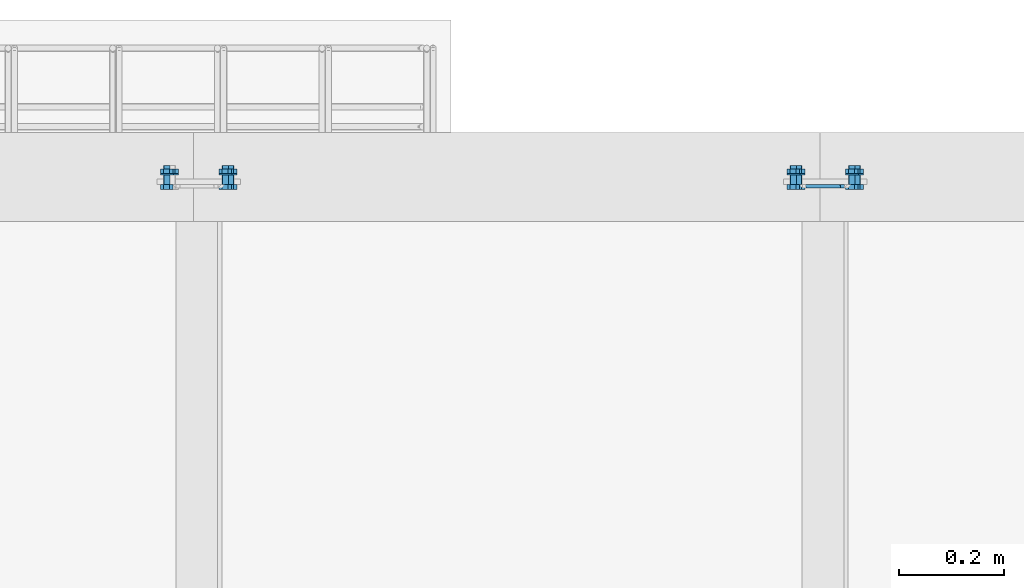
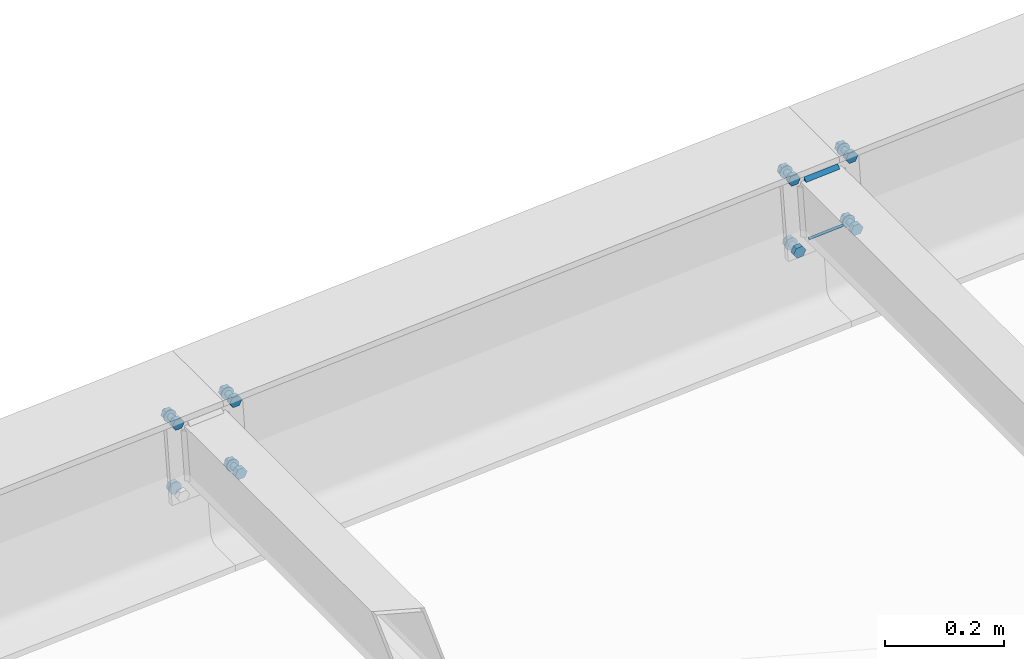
# One storey, part 69 of 72: 30 mechanical fasteners, 4 fasteners.
"""IFC4 building model written with IfcOpenShell, lengths in metres."""

from ifc_helpers import new_model, si_unit, frame, origin_with_axes, place, context, project, spatial, polyline, outline, extrude, type_object, element, save


model = new_model("IFC4")

# Units and contexts
model_context = context("Model", 3, precision=1e-05, world=origin_with_axes())
ifc_project = project(units=[si_unit("LENGTHUNIT", "METRE"), si_unit("AREAUNIT", "SQUARE_METRE"), si_unit("VOLUMEUNIT", "CUBIC_METRE"), si_unit("MASSUNIT", "GRAM", prefix="KILO"), si_unit("TIMEUNIT", "SECOND"), si_unit("PLANEANGLEUNIT", "RADIAN"), si_unit("SOLIDANGLEUNIT", "STERADIAN"), si_unit("THERMODYNAMICTEMPERATUREUNIT", "DEGREE_CELSIUS")], contexts=[model_context])

# Site, building, storey
placement_1 = place(None, origin_with_axes())
site = spatial("IfcSite", under=ifc_project, at=placement_1, Name="Italia", CompositionType="ELEMENT")
building = spatial("IfcBuilding", under=site, at=placement_1, Name="Pensilina", CompositionType="ELEMENT")
storey = spatial("IfcBuildingStorey", under=building, at=placement_1, Name="Storey 0", CompositionType="ELEMENT", Elevation=0.0)

# Mechanical fasteners
mechanical_fastener_type_1 = type_object("IfcMechanicalFastenerType", Name="Collegamento 0305_0304", PredefinedType="BOLT")
placement_2 = place(placement_1, origin_with_axes())
mechanical_fastener_1_placement = place(placement_2, origin_with_axes())
element("IfcMechanicalFastener", 1, at=mechanical_fastener_1_placement, inside=storey, type_object=mechanical_fastener_type_1, Name="Collegamento 0305_0304", NominalDiameter=0.0119999, context=model_context, shape_type="SweptSolid", body=[
    extrude(outline(polyline([(0.0, 0.0, 0.0), (-0.0119727, -0.000808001, 0.0), (-0.0186586, 0.00915694, 0.0), (-0.0133719, 0.0199296, 0.0), (-0.00139904, 0.0207374, 0.0), (0.00528693, 0.0107725, 0.0), (0.0, 0.0, 0.0)])), frame((2.1742, 21.1356, 3.68927), z_axis=(0.0, -1.0, 0.0), x_axis=(1.0, 0.0, 0.0)), (0.0, 0.0, 1.0), 0.00959969),
])
mechanical_fastener_type_2 = type_object("IfcMechanicalFastenerType", Name="Collegamento 0305_0304", PredefinedType="BOLT")
mechanical_fastener_2_placement = place(placement_2, origin_with_axes())
element("IfcMechanicalFastener", 2, at=mechanical_fastener_2_placement, inside=storey, type_object=mechanical_fastener_type_2, Name="Collegamento 0305_0304", NominalDiameter=0.024, context=model_context, shape_type="SweptSolid", body=[
    extrude(outline(polyline([(0.0, 0.0, 0.0), (-0.000408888, -0.00310588, 0.0), (-0.00160789, -0.00600004, 0.0), (-0.00351477, -0.00848532, 0.0), (-0.00600004, -0.0103922, 0.0), (-0.00889421, -0.0115912, 0.0), (-0.0120001, -0.0120001, 0.0), (-0.015106, -0.0115912, 0.0), (-0.0180001, -0.0103922, 0.0), (-0.0204854, -0.00848532, 0.0), (-0.0223923, -0.00600004, 0.0), (-0.0235913, -0.00310588, 0.0), (-0.0240002, 0.0, 0.0), (-0.0235913, 0.00310588, 0.0), (-0.0223923, 0.00600004, 0.0), (-0.0204854, 0.00848532, 0.0), (-0.0180001, 0.0103922, 0.0), (-0.015106, 0.0115912, 0.0), (-0.0120001, 0.0120001, 0.0), (-0.00889421, 0.0115912, 0.0), (-0.00600004, 0.0103922, 0.0), (-0.00351477, 0.00848532, 0.0), (-0.00160789, 0.00600004, 0.0), (-0.000408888, 0.00310588, 0.0), (0.0, 0.0, 0.0)])), frame((2.17951, 21.126, 3.69923), z_axis=(0.0, -1.0, 0.0), x_axis=(1.0, 0.0, 0.0)), (0.0, 0.0, 1.0), 0.00200081),
])
mechanical_fastener_type_3 = type_object("IfcMechanicalFastenerType", Name="Collegamento 0305_0304", PredefinedType="BOLT")
mechanical_fastener_3_placement = place(placement_2, origin_with_axes())
element("IfcMechanicalFastener", 3, at=mechanical_fastener_3_placement, inside=storey, type_object=mechanical_fastener_type_3, Name="Collegamento 0305_0304", NominalDiameter=0.0119999, context=model_context, shape_type="SweptSolid", body=[
    extrude(outline(polyline([(0.0, 0.0, 0.0), (-0.0119729, -0.000807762, 0.0), (-0.0186589, 0.00915718, 0.0), (-0.0133719, 0.0199296, 0.0), (-0.00139928, 0.0207376, 0.0), (0.00528669, 0.0107727, 0.0), (0.0, 0.0, 0.0)])), frame((2.28594, 21.106, 3.69681), z_axis=(0.0, -1.0, 0.0), x_axis=(1.0, 0.0, 0.0)), (0.0, 0.0, 1.0), 0.00959969),
])
mechanical_fastener_type_4 = type_object("IfcMechanicalFastenerType", Name="Collegamento 0305_0304", PredefinedType="BOLT")
mechanical_fastener_4_placement = place(placement_2, origin_with_axes())
element("IfcMechanicalFastener", 4, at=mechanical_fastener_4_placement, inside=storey, type_object=mechanical_fastener_type_4, Name="Collegamento 0305_0304", NominalDiameter=0.012, context=model_context, shape_type="SweptSolid", body=[
    extrude(outline(polyline([(0.0, 0.0, 0.0), (-0.000204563, -0.00155282, 0.0), (-0.000803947, -0.00300002, 0.0), (-0.00175738, -0.00424266, 0.0), (-0.00300002, -0.00519609, 0.0), (-0.00444722, -0.00579548, 0.0), (-0.00600004, -0.00600004, 0.0), (-0.00755286, -0.00579548, 0.0), (-0.00900006, -0.00519609, 0.0), (-0.0102427, -0.00424266, 0.0), (-0.0111961, -0.00300002, 0.0), (-0.0117955, -0.00155282, 0.0), (-0.0120001, 0.0, 0.0), (-0.0117955, 0.00155282, 0.0), (-0.0111961, 0.00300002, 0.0), (-0.0102427, 0.00424266, 0.0), (-0.00900006, 0.00519609, 0.0), (-0.00755286, 0.00579548, 0.0), (-0.00600004, 0.00600004, 0.0), (-0.00444722, 0.00579548, 0.0), (-0.00300002, 0.00519609, 0.0), (-0.00175738, 0.00424266, 0.0), (-0.000803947, 0.00300002, 0.0), (-0.000204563, 0.00155282, 0.0), (0.0, 0.0, 0.0)])), frame((2.28526, 21.142, 3.70677), z_axis=(0.0, -1.0, 0.0), x_axis=(1.0, 0.0, 0.0)), (0.0, 0.0, 1.0), 0.0359993),
])
mechanical_fastener_type_5 = type_object("IfcMechanicalFastenerType", Name="Collegamento 0305_0304", PredefinedType="BOLT")
mechanical_fastener_5_placement = place(placement_2, origin_with_axes())
element("IfcMechanicalFastener", 5, at=mechanical_fastener_5_placement, inside=storey, type_object=mechanical_fastener_type_5, Name="Collegamento 0305_0304", NominalDiameter=0.0119999, context=model_context, shape_type="SweptSolid", body=[
    extrude(outline(polyline([(0.0, 0.0, 0.0), (-0.0119729, -0.000807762, 0.0), (-0.0186589, 0.00915718, 0.0), (-0.0133719, 0.0199296, 0.0), (-0.00139928, 0.0207376, 0.0), (0.00528669, 0.0107727, 0.0), (0.0, 0.0, 0.0)])), frame((2.28594, 21.1356, 3.69681), z_axis=(0.0, -1.0, 0.0), x_axis=(1.0, 0.0, 0.0)), (0.0, 0.0, 1.0), 0.00959969),
])
mechanical_fastener_type_6 = type_object("IfcMechanicalFastenerType", Name="Collegamento 0305_0304", PredefinedType="BOLT")
mechanical_fastener_6_placement = place(placement_2, origin_with_axes())
element("IfcMechanicalFastener", 6, at=mechanical_fastener_6_placement, inside=storey, type_object=mechanical_fastener_type_6, Name="Collegamento 0305_0304", NominalDiameter=0.024, context=model_context, shape_type="SweptSolid", body=[
    extrude(outline(polyline([(0.0, 0.0, 0.0), (-0.000408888, -0.00310588, 0.0), (-0.00160789, -0.00600004, 0.0), (-0.00351477, -0.00848532, 0.0), (-0.00600004, -0.0103922, 0.0), (-0.00889421, -0.0115912, 0.0), (-0.0120001, -0.0120001, 0.0), (-0.015106, -0.0115912, 0.0), (-0.0180001, -0.0103922, 0.0), (-0.0204854, -0.00848532, 0.0), (-0.0223923, -0.00600004, 0.0), (-0.0235913, -0.00310588, 0.0), (-0.0240002, 0.0, 0.0), (-0.0235913, 0.00310588, 0.0), (-0.0223923, 0.00600004, 0.0), (-0.0204854, 0.00848532, 0.0), (-0.0180001, 0.0103922, 0.0), (-0.015106, 0.0115912, 0.0), (-0.0120001, 0.0120001, 0.0), (-0.00889421, 0.0115912, 0.0), (-0.00600004, 0.0103922, 0.0), (-0.00351477, 0.00848532, 0.0), (-0.00160789, 0.00600004, 0.0), (-0.000408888, 0.00310588, 0.0), (0.0, 0.0, 0.0)])), frame((2.29126, 21.126, 3.70677), z_axis=(0.0, -1.0, 0.0), x_axis=(1.0, 0.0, 0.0)), (0.0, 0.0, 1.0), 0.00200081),
])
mechanical_fastener_type_7 = type_object("IfcMechanicalFastenerType", Name="Collegamento 0305_0304", PredefinedType="BOLT")
mechanical_fastener_7_placement = place(placement_2, origin_with_axes())
element("IfcMechanicalFastener", 7, at=mechanical_fastener_7_placement, inside=storey, type_object=mechanical_fastener_type_7, Name="Collegamento 0305_0304", NominalDiameter=0.0119999, context=model_context, shape_type="SweptSolid", body=[
    extrude(outline(polyline([(0.0, 0.0, 0.0), (-0.0119727, -0.000808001, 0.0), (-0.0186586, 0.00915694, 0.0), (-0.0133719, 0.0199296, 0.0), (-0.00139904, 0.0207374, 0.0), (0.00528693, 0.0107725, 0.0), (0.0, 0.0, 0.0)])), frame((2.16397, 21.106, 3.84092), z_axis=(0.0, -1.0, 0.0), x_axis=(1.0, 0.0, 0.0)), (0.0, 0.0, 1.0), 0.00959969),
])
mechanical_fastener_type_8 = type_object("IfcMechanicalFastenerType", Name="Collegamento 0305_0304", PredefinedType="BOLT")
mechanical_fastener_8_placement = place(placement_2, origin_with_axes())
element("IfcMechanicalFastener", 8, at=mechanical_fastener_8_placement, inside=storey, type_object=mechanical_fastener_type_8, Name="Collegamento 0305_0304", NominalDiameter=0.012, context=model_context, shape_type="SweptSolid", body=[
    extrude(outline(polyline([(0.0, 0.0, 0.0), (-0.000204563, -0.00155282, 0.0), (-0.000803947, -0.00300002, 0.0), (-0.00175738, -0.00424266, 0.0), (-0.00300002, -0.00519609, 0.0), (-0.00444722, -0.00579548, 0.0), (-0.00600004, -0.00600004, 0.0), (-0.00755286, -0.00579548, 0.0), (-0.00900006, -0.00519609, 0.0), (-0.0102427, -0.00424266, 0.0), (-0.0111961, -0.00300002, 0.0), (-0.0117955, -0.00155282, 0.0), (-0.0120001, 0.0, 0.0), (-0.0117955, 0.00155282, 0.0), (-0.0111961, 0.00300002, 0.0), (-0.0102427, 0.00424266, 0.0), (-0.00900006, 0.00519609, 0.0), (-0.00755286, 0.00579548, 0.0), (-0.00600004, 0.00600004, 0.0), (-0.00444722, 0.00579548, 0.0), (-0.00300002, 0.00519609, 0.0), (-0.00175738, 0.00424266, 0.0), (-0.000803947, 0.00300002, 0.0), (-0.000204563, 0.00155282, 0.0), (0.0, 0.0, 0.0)])), frame((2.16328, 21.142, 3.85089), z_axis=(0.0, -1.0, 0.0), x_axis=(1.0, 0.0, 0.0)), (0.0, 0.0, 1.0), 0.0359993),
])
mechanical_fastener_type_9 = type_object("IfcMechanicalFastenerType", Name="Collegamento 0305_0304", PredefinedType="BOLT")
mechanical_fastener_9_placement = place(placement_2, origin_with_axes())
element("IfcMechanicalFastener", 9, at=mechanical_fastener_9_placement, inside=storey, type_object=mechanical_fastener_type_9, Name="Collegamento 0305_0304", NominalDiameter=0.0119999, context=model_context, shape_type="SweptSolid", body=[
    extrude(outline(polyline([(0.0, 0.0, 0.0), (-0.0119727, -0.000808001, 0.0), (-0.0186586, 0.00915694, 0.0), (-0.0133719, 0.0199296, 0.0), (-0.00139904, 0.0207374, 0.0), (0.00528693, 0.0107725, 0.0), (0.0, 0.0, 0.0)])), frame((2.16397, 21.1356, 3.84092), z_axis=(0.0, -1.0, 0.0), x_axis=(1.0, 0.0, 0.0)), (0.0, 0.0, 1.0), 0.00959969),
])
mechanical_fastener_type_10 = type_object("IfcMechanicalFastenerType", Name="Collegamento 0305_0304", PredefinedType="BOLT")
mechanical_fastener_10_placement = place(placement_2, origin_with_axes())
element("IfcMechanicalFastener", 10, at=mechanical_fastener_10_placement, inside=storey, type_object=mechanical_fastener_type_10, Name="Collegamento 0305_0304", NominalDiameter=0.024, context=model_context, shape_type="SweptSolid", body=[
    extrude(outline(polyline([(0.0, 0.0, 0.0), (-0.000408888, -0.00310588, 0.0), (-0.00160789, -0.00600004, 0.0), (-0.00351477, -0.00848532, 0.0), (-0.00600004, -0.0103922, 0.0), (-0.00889421, -0.0115912, 0.0), (-0.0120001, -0.0120001, 0.0), (-0.015106, -0.0115912, 0.0), (-0.0180001, -0.0103922, 0.0), (-0.0204854, -0.00848532, 0.0), (-0.0223923, -0.00600004, 0.0), (-0.0235913, -0.00310588, 0.0), (-0.0240002, 0.0, 0.0), (-0.0235913, 0.00310588, 0.0), (-0.0223923, 0.00600004, 0.0), (-0.0204854, 0.00848532, 0.0), (-0.0180001, 0.0103922, 0.0), (-0.015106, 0.0115912, 0.0), (-0.0120001, 0.0120001, 0.0), (-0.00889421, 0.0115912, 0.0), (-0.00600004, 0.0103922, 0.0), (-0.00351477, 0.00848532, 0.0), (-0.00160789, 0.00600004, 0.0), (-0.000408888, 0.00310588, 0.0), (0.0, 0.0, 0.0)])), frame((2.16928, 21.126, 3.85089), z_axis=(0.0, -1.0, 0.0), x_axis=(1.0, 0.0, 0.0)), (0.0, 0.0, 1.0), 0.00200081),
])
mechanical_fastener_type_11 = type_object("IfcMechanicalFastenerType", Name="Collegamento 0305_0304", PredefinedType="BOLT")
mechanical_fastener_11_placement = place(placement_2, origin_with_axes())
element("IfcMechanicalFastener", 11, at=mechanical_fastener_11_placement, inside=storey, type_object=mechanical_fastener_type_11, Name="Collegamento 0305_0304", NominalDiameter=0.0119999, context=model_context, shape_type="SweptSolid", body=[
    extrude(outline(polyline([(0.0, 0.0, 0.0), (-0.0119729, -0.000807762, 0.0), (-0.0186589, 0.00915718, 0.0), (-0.0133719, 0.0199296, 0.0), (-0.00139928, 0.0207376, 0.0), (0.00528669, 0.0107727, 0.0), (0.0, 0.0, 0.0)])), frame((2.27571, 21.106, 3.84846), z_axis=(0.0, -1.0, 0.0), x_axis=(1.0, 0.0, 0.0)), (0.0, 0.0, 1.0), 0.00959969),
])
mechanical_fastener_type_12 = type_object("IfcMechanicalFastenerType", Name="Collegamento 0305_0304", PredefinedType="BOLT")
mechanical_fastener_12_placement = place(placement_2, origin_with_axes())
element("IfcMechanicalFastener", 12, at=mechanical_fastener_12_placement, inside=storey, type_object=mechanical_fastener_type_12, Name="Collegamento 0305_0304", NominalDiameter=0.012, context=model_context, shape_type="SweptSolid", body=[
    extrude(outline(polyline([(0.0, 0.0, 0.0), (-0.000204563, -0.00155282, 0.0), (-0.000803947, -0.00300002, 0.0), (-0.00175738, -0.00424266, 0.0), (-0.00300002, -0.00519609, 0.0), (-0.00444722, -0.00579548, 0.0), (-0.00600004, -0.00600004, 0.0), (-0.00755286, -0.00579548, 0.0), (-0.00900006, -0.00519609, 0.0), (-0.0102427, -0.00424266, 0.0), (-0.0111961, -0.00300002, 0.0), (-0.0117955, -0.00155282, 0.0), (-0.0120001, 0.0, 0.0), (-0.0117955, 0.00155282, 0.0), (-0.0111961, 0.00300002, 0.0), (-0.0102427, 0.00424266, 0.0), (-0.00900006, 0.00519609, 0.0), (-0.00755286, 0.00579548, 0.0), (-0.00600004, 0.00600004, 0.0), (-0.00444722, 0.00579548, 0.0), (-0.00300002, 0.00519609, 0.0), (-0.00175738, 0.00424266, 0.0), (-0.000803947, 0.00300002, 0.0), (-0.000204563, 0.00155282, 0.0), (0.0, 0.0, 0.0)])), frame((2.27503, 21.142, 3.85843), z_axis=(0.0, -1.0, 0.0), x_axis=(1.0, 0.0, 0.0)), (0.0, 0.0, 1.0), 0.0359993),
])
mechanical_fastener_type_13 = type_object("IfcMechanicalFastenerType", Name="Collegamento 0305_0304", PredefinedType="BOLT")
mechanical_fastener_13_placement = place(placement_2, origin_with_axes())
element("IfcMechanicalFastener", 13, at=mechanical_fastener_13_placement, inside=storey, type_object=mechanical_fastener_type_13, Name="Collegamento 0305_0304", NominalDiameter=0.0119999, context=model_context, shape_type="SweptSolid", body=[
    extrude(outline(polyline([(0.0, 0.0, 0.0), (-0.0119729, -0.000807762, 0.0), (-0.0186589, 0.00915718, 0.0), (-0.0133719, 0.0199296, 0.0), (-0.00139928, 0.0207376, 0.0), (0.00528669, 0.0107727, 0.0), (0.0, 0.0, 0.0)])), frame((2.27571, 21.1356, 3.84846), z_axis=(0.0, -1.0, 0.0), x_axis=(1.0, 0.0, 0.0)), (0.0, 0.0, 1.0), 0.00959969),
])
mechanical_fastener_type_14 = type_object("IfcMechanicalFastenerType", Name="Collegamento 0305_0304", PredefinedType="BOLT")
mechanical_fastener_14_placement = place(placement_2, origin_with_axes())
element("IfcMechanicalFastener", 14, at=mechanical_fastener_14_placement, inside=storey, type_object=mechanical_fastener_type_14, Name="Collegamento 0305_0304", NominalDiameter=0.024, context=model_context, shape_type="SweptSolid", body=[
    extrude(outline(polyline([(0.0, 0.0, 0.0), (-0.000408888, -0.00310588, 0.0), (-0.00160789, -0.00600004, 0.0), (-0.00351477, -0.00848532, 0.0), (-0.00600004, -0.0103922, 0.0), (-0.00889421, -0.0115912, 0.0), (-0.0120001, -0.0120001, 0.0), (-0.015106, -0.0115912, 0.0), (-0.0180001, -0.0103922, 0.0), (-0.0204854, -0.00848532, 0.0), (-0.0223923, -0.00600004, 0.0), (-0.0235913, -0.00310588, 0.0), (-0.0240002, 0.0, 0.0), (-0.0235913, 0.00310588, 0.0), (-0.0223923, 0.00600004, 0.0), (-0.0204854, 0.00848532, 0.0), (-0.0180001, 0.0103922, 0.0), (-0.015106, 0.0115912, 0.0), (-0.0120001, 0.0120001, 0.0), (-0.00889421, 0.0115912, 0.0), (-0.00600004, 0.0103922, 0.0), (-0.00351477, 0.00848532, 0.0), (-0.00160789, 0.00600004, 0.0), (-0.000408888, 0.00310588, 0.0), (0.0, 0.0, 0.0)])), frame((2.28103, 21.126, 3.85843), z_axis=(0.0, -1.0, 0.0), x_axis=(1.0, 0.0, 0.0)), (0.0, 0.0, 1.0), 0.00200081),
])

# Fasteners
fastener_type_1 = type_object("IfcFastenerType", Name="Collegamento 0405_0404", PredefinedType="WELD")
fastener_1_placement = place(placement_2, origin_with_axes())
element("IfcFastener", 15, at=fastener_1_placement, inside=storey, type_object=fastener_type_1, Name="Collegamento 0405_0404", context=model_context, shape_type="SweptSolid", body=[
    extrude(outline(polyline([(0.0, 0.0, 0.0), (0.00717354, -0.00695825, 0.0), (0.0, -0.00695825, 0.0), (0.0, 0.0, 0.0)])), frame((3.44387, 21.106, 3.93006), z_axis=(-0.997731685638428, 0.0, -0.067316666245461), x_axis=(0.0, -1.0, 0.0)), (0.0, 0.0, 1.0), 0.0660996),
])
fastener_type_2 = type_object("IfcFastenerType", Name="Collegamento 0405_0404", PredefinedType="WELD")
fastener_2_placement = place(placement_2, origin_with_axes())
element("IfcFastener", 16, at=fastener_2_placement, inside=storey, type_object=fastener_type_2, Name="Collegamento 0405_0404", context=model_context, shape_type="SweptSolid", body=[
    extrude(outline(polyline([(0.0, 0.0, 0.0), (-0.00717354, 0.00695801, 0.0), (0.0, 0.00695801, 0.0), (0.0, 0.0, 0.0)])), frame((3.38693, 21.106, 3.79209), z_axis=(0.997731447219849, 0.0, 0.067320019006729), x_axis=(0.0, 1.0, 0.0)), (0.0, 0.0, 1.0), 0.0660999),
])
fastener_type_3 = type_object("IfcFastenerType", Name="Collegamento 0405_0404", PredefinedType="WELD")
fastener_3_placement = place(placement_2, origin_with_axes())
element("IfcFastener", 17, at=fastener_3_placement, inside=storey, type_object=fastener_type_3, Name="Collegamento 0405_0404", context=model_context, shape_type="SweptSolid", body=[
    extrude(outline(polyline([(0.0, 0.0, 0.0), (0.00717354, -0.00695825, 0.0), (0.0, -0.00695825, 0.0), (0.0, 0.0, 0.0)])), frame((3.44387, 21.106, 3.93006), z_axis=(-0.997731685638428, 0.0, -0.067316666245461), x_axis=(0.0, -1.0, 0.0)), (0.0, 0.0, 1.0), 0.0660996),
])
fastener_type_4 = type_object("IfcFastenerType", Name="Collegamento 0405_0404", PredefinedType="WELD")
fastener_4_placement = place(placement_2, origin_with_axes())
element("IfcFastener", 18, at=fastener_4_placement, inside=storey, type_object=fastener_type_4, Name="Collegamento 0405_0404", context=model_context, shape_type="SweptSolid", body=[
    extrude(outline(polyline([(0.0, 0.0, 0.0), (-0.00717354, 0.00695801, 0.0), (0.0, 0.00695801, 0.0), (0.0, 0.0, 0.0)])), frame((3.38693, 21.106, 3.79209), z_axis=(0.997731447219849, 0.0, 0.067320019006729), x_axis=(0.0, 1.0, 0.0)), (0.0, 0.0, 1.0), 0.0660999),
])

# Mechanical fasteners
mechanical_fastener_type_15 = type_object("IfcMechanicalFastenerType", Name="Collegamento 0405_0404", PredefinedType="BOLT")
mechanical_fastener_15_placement = place(placement_2, origin_with_axes())
element("IfcMechanicalFastener", 19, at=mechanical_fastener_15_placement, inside=storey, type_object=mechanical_fastener_type_15, Name="Collegamento 0405_0404", NominalDiameter=0.0119998, context=model_context, shape_type="SweptSolid", body=[
    extrude(outline(polyline([(0.0, 0.0, 0.0), (-0.0119729, -0.000808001, 0.0), (-0.0186589, 0.00915694, 0.0), (-0.0133719, 0.0199296, 0.0), (-0.00139928, 0.0207374, 0.0), (0.00528669, 0.0107725, 0.0), (0.0, 0.0, 0.0)])), frame((3.37133, 21.106, 3.77151), z_axis=(0.0, -1.0, 0.0), x_axis=(1.0, 0.0, 0.0)), (0.0, 0.0, 1.0), 0.00959969),
])
mechanical_fastener_type_16 = type_object("IfcMechanicalFastenerType", Name="Collegamento 0405_0404", PredefinedType="BOLT")
mechanical_fastener_16_placement = place(placement_2, origin_with_axes())
element("IfcMechanicalFastener", 20, at=mechanical_fastener_16_placement, inside=storey, type_object=mechanical_fastener_type_16, Name="Collegamento 0405_0404", NominalDiameter=0.012, context=model_context, shape_type="SweptSolid", body=[
    extrude(outline(polyline([(0.0, 0.0, 0.0), (-0.000204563, -0.00155282, 0.0), (-0.000803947, -0.00300002, 0.0), (-0.00175738, -0.00424266, 0.0), (-0.00300002, -0.00519609, 0.0), (-0.00444722, -0.00579548, 0.0), (-0.00600004, -0.00600004, 0.0), (-0.00755286, -0.00579548, 0.0), (-0.00900006, -0.00519609, 0.0), (-0.0102427, -0.00424266, 0.0), (-0.0111961, -0.00300002, 0.0), (-0.0117955, -0.00155282, 0.0), (-0.0120001, 0.0, 0.0), (-0.0117955, 0.00155282, 0.0), (-0.0111961, 0.00300002, 0.0), (-0.0102427, 0.00424266, 0.0), (-0.00900006, 0.00519609, 0.0), (-0.00755286, 0.00579548, 0.0), (-0.00600004, 0.00600004, 0.0), (-0.00444722, 0.00579548, 0.0), (-0.00300002, 0.00519609, 0.0), (-0.00175738, 0.00424266, 0.0), (-0.000803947, 0.00300002, 0.0), (-0.000204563, 0.00155282, 0.0), (0.0, 0.0, 0.0)])), frame((3.37064, 21.142, 3.78148), z_axis=(0.0, -1.0, 0.0), x_axis=(1.0, 0.0, 0.0)), (0.0, 0.0, 1.0), 0.0359993),
])
mechanical_fastener_type_17 = type_object("IfcMechanicalFastenerType", Name="Collegamento 0405_0404", PredefinedType="BOLT")
mechanical_fastener_17_placement = place(placement_2, origin_with_axes())
element("IfcMechanicalFastener", 21, at=mechanical_fastener_17_placement, inside=storey, type_object=mechanical_fastener_type_17, Name="Collegamento 0405_0404", NominalDiameter=0.0119998, context=model_context, shape_type="SweptSolid", body=[
    extrude(outline(polyline([(0.0, 0.0, 0.0), (-0.0119729, -0.000808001, 0.0), (-0.0186589, 0.00915694, 0.0), (-0.0133719, 0.0199296, 0.0), (-0.00139928, 0.0207374, 0.0), (0.00528669, 0.0107725, 0.0), (0.0, 0.0, 0.0)])), frame((3.37133, 21.1356, 3.77151), z_axis=(0.0, -1.0, 0.0), x_axis=(1.0, 0.0, 0.0)), (0.0, 0.0, 1.0), 0.00959969),
])
mechanical_fastener_type_18 = type_object("IfcMechanicalFastenerType", Name="Collegamento 0405_0404", PredefinedType="BOLT")
mechanical_fastener_18_placement = place(placement_2, origin_with_axes())
element("IfcMechanicalFastener", 22, at=mechanical_fastener_18_placement, inside=storey, type_object=mechanical_fastener_type_18, Name="Collegamento 0405_0404", NominalDiameter=0.024, context=model_context, shape_type="SweptSolid", body=[
    extrude(outline(polyline([(0.0, 0.0, 0.0), (-0.000408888, -0.00310588, 0.0), (-0.00160789, -0.00600004, 0.0), (-0.00351477, -0.00848532, 0.0), (-0.00600004, -0.0103922, 0.0), (-0.00889421, -0.0115912, 0.0), (-0.0120001, -0.0120001, 0.0), (-0.015106, -0.0115912, 0.0), (-0.0180001, -0.0103922, 0.0), (-0.0204854, -0.00848532, 0.0), (-0.0223923, -0.00600004, 0.0), (-0.0235913, -0.00310588, 0.0), (-0.0240002, 0.0, 0.0), (-0.0235913, 0.00310588, 0.0), (-0.0223923, 0.00600004, 0.0), (-0.0204854, 0.00848532, 0.0), (-0.0180001, 0.0103922, 0.0), (-0.015106, 0.0115912, 0.0), (-0.0120001, 0.0120001, 0.0), (-0.00889421, 0.0115912, 0.0), (-0.00600004, 0.0103922, 0.0), (-0.00351477, 0.00848532, 0.0), (-0.00160789, 0.00600004, 0.0), (-0.000408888, 0.00310588, 0.0), (0.0, 0.0, 0.0)])), frame((3.37664, 21.126, 3.78148), z_axis=(0.0, -1.0, 0.0), x_axis=(1.0, 0.0, 0.0)), (0.0, 0.0, 1.0), 0.00200081),
])
mechanical_fastener_type_19 = type_object("IfcMechanicalFastenerType", Name="Collegamento 0405_0404", PredefinedType="BOLT")
mechanical_fastener_19_placement = place(placement_2, origin_with_axes())
element("IfcMechanicalFastener", 23, at=mechanical_fastener_19_placement, inside=storey, type_object=mechanical_fastener_type_19, Name="Collegamento 0405_0404", NominalDiameter=0.0119998, context=model_context, shape_type="SweptSolid", body=[
    extrude(outline(polyline([(0.0, 0.0, 0.0), (-0.0119727, -0.000807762, 0.0), (-0.0186586, 0.00915718, 0.0), (-0.0133719, 0.0199296, 0.0), (-0.00139904, 0.0207376, 0.0), (0.00528693, 0.0107727, 0.0), (0.0, 0.0, 0.0)])), frame((3.48307, 21.106, 3.77905), z_axis=(0.0, -1.0, 0.0), x_axis=(1.0, 0.0, 0.0)), (0.0, 0.0, 1.0), 0.00959969),
])
mechanical_fastener_type_20 = type_object("IfcMechanicalFastenerType", Name="Collegamento 0405_0404", PredefinedType="BOLT")
mechanical_fastener_20_placement = place(placement_2, origin_with_axes())
element("IfcMechanicalFastener", 24, at=mechanical_fastener_20_placement, inside=storey, type_object=mechanical_fastener_type_20, Name="Collegamento 0405_0404", NominalDiameter=0.012, context=model_context, shape_type="SweptSolid", body=[
    extrude(outline(polyline([(0.0, 0.0, 0.0), (-0.000204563, -0.00155282, 0.0), (-0.000803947, -0.00300002, 0.0), (-0.00175738, -0.00424266, 0.0), (-0.00300002, -0.00519609, 0.0), (-0.00444722, -0.00579548, 0.0), (-0.00600004, -0.00600004, 0.0), (-0.00755286, -0.00579548, 0.0), (-0.00900006, -0.00519609, 0.0), (-0.0102427, -0.00424266, 0.0), (-0.0111961, -0.00300002, 0.0), (-0.0117955, -0.00155282, 0.0), (-0.0120001, 0.0, 0.0), (-0.0117955, 0.00155282, 0.0), (-0.0111961, 0.00300002, 0.0), (-0.0102427, 0.00424266, 0.0), (-0.00900006, 0.00519609, 0.0), (-0.00755286, 0.00579548, 0.0), (-0.00600004, 0.00600004, 0.0), (-0.00444722, 0.00579548, 0.0), (-0.00300002, 0.00519609, 0.0), (-0.00175738, 0.00424266, 0.0), (-0.000803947, 0.00300002, 0.0), (-0.000204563, 0.00155282, 0.0), (0.0, 0.0, 0.0)])), frame((3.48239, 21.142, 3.78902), z_axis=(0.0, -1.0, 0.0), x_axis=(1.0, 0.0, 0.0)), (0.0, 0.0, 1.0), 0.0359993),
])
mechanical_fastener_type_21 = type_object("IfcMechanicalFastenerType", Name="Collegamento 0405_0404", PredefinedType="BOLT")
mechanical_fastener_21_placement = place(placement_2, origin_with_axes())
element("IfcMechanicalFastener", 25, at=mechanical_fastener_21_placement, inside=storey, type_object=mechanical_fastener_type_21, Name="Collegamento 0405_0404", NominalDiameter=0.0119998, context=model_context, shape_type="SweptSolid", body=[
    extrude(outline(polyline([(0.0, 0.0, 0.0), (-0.0119727, -0.000807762, 0.0), (-0.0186586, 0.00915718, 0.0), (-0.0133719, 0.0199296, 0.0), (-0.00139904, 0.0207376, 0.0), (0.00528693, 0.0107727, 0.0), (0.0, 0.0, 0.0)])), frame((3.48307, 21.1356, 3.77905), z_axis=(0.0, -1.0, 0.0), x_axis=(1.0, 0.0, 0.0)), (0.0, 0.0, 1.0), 0.00959969),
])
mechanical_fastener_type_22 = type_object("IfcMechanicalFastenerType", Name="Collegamento 0405_0404", PredefinedType="BOLT")
mechanical_fastener_22_placement = place(placement_2, origin_with_axes())
element("IfcMechanicalFastener", 26, at=mechanical_fastener_22_placement, inside=storey, type_object=mechanical_fastener_type_22, Name="Collegamento 0405_0404", NominalDiameter=0.024, context=model_context, shape_type="SweptSolid", body=[
    extrude(outline(polyline([(0.0, 0.0, 0.0), (-0.000408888, -0.00310588, 0.0), (-0.00160789, -0.00600004, 0.0), (-0.00351477, -0.00848532, 0.0), (-0.00600004, -0.0103922, 0.0), (-0.00889421, -0.0115912, 0.0), (-0.0120001, -0.0120001, 0.0), (-0.015106, -0.0115912, 0.0), (-0.0180001, -0.0103922, 0.0), (-0.0204854, -0.00848532, 0.0), (-0.0223923, -0.00600004, 0.0), (-0.0235913, -0.00310588, 0.0), (-0.0240002, 0.0, 0.0), (-0.0235913, 0.00310588, 0.0), (-0.0223923, 0.00600004, 0.0), (-0.0204854, 0.00848532, 0.0), (-0.0180001, 0.0103922, 0.0), (-0.015106, 0.0115912, 0.0), (-0.0120001, 0.0120001, 0.0), (-0.00889421, 0.0115912, 0.0), (-0.00600004, 0.0103922, 0.0), (-0.00351477, 0.00848532, 0.0), (-0.00160789, 0.00600004, 0.0), (-0.000408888, 0.00310588, 0.0), (0.0, 0.0, 0.0)])), frame((3.48839, 21.126, 3.78902), z_axis=(0.0, -1.0, 0.0), x_axis=(1.0, 0.0, 0.0)), (0.0, 0.0, 1.0), 0.00200081),
])
mechanical_fastener_type_23 = type_object("IfcMechanicalFastenerType", Name="Collegamento 0405_0404", PredefinedType="BOLT")
mechanical_fastener_23_placement = place(placement_2, origin_with_axes())
element("IfcMechanicalFastener", 27, at=mechanical_fastener_23_placement, inside=storey, type_object=mechanical_fastener_type_23, Name="Collegamento 0405_0404", NominalDiameter=0.0119998, context=model_context, shape_type="SweptSolid", body=[
    extrude(outline(polyline([(0.0, 0.0, 0.0), (-0.0119729, -0.000808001, 0.0), (-0.0186589, 0.00915694, 0.0), (-0.0133719, 0.0199296, 0.0), (-0.00139928, 0.0207374, 0.0), (0.00528669, 0.0107725, 0.0), (0.0, 0.0, 0.0)])), frame((3.3611, 21.106, 3.92317), z_axis=(0.0, -1.0, 0.0), x_axis=(1.0, 0.0, 0.0)), (0.0, 0.0, 1.0), 0.00959969),
])
mechanical_fastener_type_24 = type_object("IfcMechanicalFastenerType", Name="Collegamento 0405_0404", PredefinedType="BOLT")
mechanical_fastener_24_placement = place(placement_2, origin_with_axes())
element("IfcMechanicalFastener", 28, at=mechanical_fastener_24_placement, inside=storey, type_object=mechanical_fastener_type_24, Name="Collegamento 0405_0404", NominalDiameter=0.012, context=model_context, shape_type="SweptSolid", body=[
    extrude(outline(polyline([(0.0, 0.0, 0.0), (-0.000204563, -0.00155282, 0.0), (-0.000803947, -0.00300002, 0.0), (-0.00175738, -0.00424266, 0.0), (-0.00300002, -0.00519609, 0.0), (-0.00444722, -0.00579548, 0.0), (-0.00600004, -0.00600004, 0.0), (-0.00755286, -0.00579548, 0.0), (-0.00900006, -0.00519609, 0.0), (-0.0102427, -0.00424266, 0.0), (-0.0111961, -0.00300002, 0.0), (-0.0117955, -0.00155282, 0.0), (-0.0120001, 0.0, 0.0), (-0.0117955, 0.00155282, 0.0), (-0.0111961, 0.00300002, 0.0), (-0.0102427, 0.00424266, 0.0), (-0.00900006, 0.00519609, 0.0), (-0.00755286, 0.00579548, 0.0), (-0.00600004, 0.00600004, 0.0), (-0.00444722, 0.00579548, 0.0), (-0.00300002, 0.00519609, 0.0), (-0.00175738, 0.00424266, 0.0), (-0.000803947, 0.00300002, 0.0), (-0.000204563, 0.00155282, 0.0), (0.0, 0.0, 0.0)])), frame((3.36041, 21.142, 3.93313), z_axis=(0.0, -1.0, 0.0), x_axis=(1.0, 0.0, 0.0)), (0.0, 0.0, 1.0), 0.0359993),
])
mechanical_fastener_type_25 = type_object("IfcMechanicalFastenerType", Name="Collegamento 0405_0404", PredefinedType="BOLT")
mechanical_fastener_25_placement = place(placement_2, origin_with_axes())
element("IfcMechanicalFastener", 29, at=mechanical_fastener_25_placement, inside=storey, type_object=mechanical_fastener_type_25, Name="Collegamento 0405_0404", NominalDiameter=0.0119998, context=model_context, shape_type="SweptSolid", body=[
    extrude(outline(polyline([(0.0, 0.0, 0.0), (-0.0119729, -0.000808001, 0.0), (-0.0186589, 0.00915694, 0.0), (-0.0133719, 0.0199296, 0.0), (-0.00139928, 0.0207374, 0.0), (0.00528669, 0.0107725, 0.0), (0.0, 0.0, 0.0)])), frame((3.3611, 21.1356, 3.92317), z_axis=(0.0, -1.0, 0.0), x_axis=(1.0, 0.0, 0.0)), (0.0, 0.0, 1.0), 0.00959969),
])
mechanical_fastener_type_26 = type_object("IfcMechanicalFastenerType", Name="Collegamento 0405_0404", PredefinedType="BOLT")
mechanical_fastener_26_placement = place(placement_2, origin_with_axes())
element("IfcMechanicalFastener", 30, at=mechanical_fastener_26_placement, inside=storey, type_object=mechanical_fastener_type_26, Name="Collegamento 0405_0404", NominalDiameter=0.024, context=model_context, shape_type="SweptSolid", body=[
    extrude(outline(polyline([(0.0, 0.0, 0.0), (-0.000408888, -0.00310588, 0.0), (-0.00160789, -0.00600004, 0.0), (-0.00351477, -0.00848532, 0.0), (-0.00600004, -0.0103922, 0.0), (-0.00889421, -0.0115912, 0.0), (-0.0120001, -0.0120001, 0.0), (-0.015106, -0.0115912, 0.0), (-0.0180001, -0.0103922, 0.0), (-0.0204854, -0.00848532, 0.0), (-0.0223923, -0.00600004, 0.0), (-0.0235913, -0.00310588, 0.0), (-0.0240002, 0.0, 0.0), (-0.0235913, 0.00310588, 0.0), (-0.0223923, 0.00600004, 0.0), (-0.0204854, 0.00848532, 0.0), (-0.0180001, 0.0103922, 0.0), (-0.015106, 0.0115912, 0.0), (-0.0120001, 0.0120001, 0.0), (-0.00889421, 0.0115912, 0.0), (-0.00600004, 0.0103922, 0.0), (-0.00351477, 0.00848532, 0.0), (-0.00160789, 0.00600004, 0.0), (-0.000408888, 0.00310588, 0.0), (0.0, 0.0, 0.0)])), frame((3.36641, 21.126, 3.93313), z_axis=(0.0, -1.0, 0.0), x_axis=(1.0, 0.0, 0.0)), (0.0, 0.0, 1.0), 0.00200081),
])
mechanical_fastener_type_27 = type_object("IfcMechanicalFastenerType", Name="Collegamento 0405_0404", PredefinedType="BOLT")
mechanical_fastener_27_placement = place(placement_2, origin_with_axes())
element("IfcMechanicalFastener", 31, at=mechanical_fastener_27_placement, inside=storey, type_object=mechanical_fastener_type_27, Name="Collegamento 0405_0404", NominalDiameter=0.0119998, context=model_context, shape_type="SweptSolid", body=[
    extrude(outline(polyline([(0.0, 0.0, 0.0), (-0.0119727, -0.000808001, 0.0), (-0.0186586, 0.00915694, 0.0), (-0.0133719, 0.0199294, 0.0), (-0.00139904, 0.0207374, 0.0), (0.00528693, 0.0107725, 0.0), (0.0, 0.0, 0.0)])), frame((3.47284, 21.106, 3.93071), z_axis=(0.0, -1.0, 0.0), x_axis=(1.0, 0.0, 0.0)), (0.0, 0.0, 1.0), 0.00959969),
])
mechanical_fastener_type_28 = type_object("IfcMechanicalFastenerType", Name="Collegamento 0405_0404", PredefinedType="BOLT")
mechanical_fastener_28_placement = place(placement_2, origin_with_axes())
element("IfcMechanicalFastener", 32, at=mechanical_fastener_28_placement, inside=storey, type_object=mechanical_fastener_type_28, Name="Collegamento 0405_0404", NominalDiameter=0.012, context=model_context, shape_type="SweptSolid", body=[
    extrude(outline(polyline([(0.0, 0.0, 0.0), (-0.000204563, -0.00155282, 0.0), (-0.000803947, -0.00300002, 0.0), (-0.00175738, -0.00424266, 0.0), (-0.00300002, -0.00519609, 0.0), (-0.00444722, -0.00579548, 0.0), (-0.00600004, -0.00600004, 0.0), (-0.00755286, -0.00579548, 0.0), (-0.00900006, -0.00519609, 0.0), (-0.0102427, -0.00424266, 0.0), (-0.0111961, -0.00300002, 0.0), (-0.0117955, -0.00155282, 0.0), (-0.0120001, 0.0, 0.0), (-0.0117955, 0.00155282, 0.0), (-0.0111961, 0.00300002, 0.0), (-0.0102427, 0.00424266, 0.0), (-0.00900006, 0.00519609, 0.0), (-0.00755286, 0.00579548, 0.0), (-0.00600004, 0.00600004, 0.0), (-0.00444722, 0.00579548, 0.0), (-0.00300002, 0.00519609, 0.0), (-0.00175738, 0.00424266, 0.0), (-0.000803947, 0.00300002, 0.0), (-0.000204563, 0.00155282, 0.0), (0.0, 0.0, 0.0)])), frame((3.47216, 21.142, 3.94067), z_axis=(0.0, -1.0, 0.0), x_axis=(1.0, 0.0, 0.0)), (0.0, 0.0, 1.0), 0.0359993),
])
mechanical_fastener_type_29 = type_object("IfcMechanicalFastenerType", Name="Collegamento 0405_0404", PredefinedType="BOLT")
mechanical_fastener_29_placement = place(placement_2, origin_with_axes())
element("IfcMechanicalFastener", 33, at=mechanical_fastener_29_placement, inside=storey, type_object=mechanical_fastener_type_29, Name="Collegamento 0405_0404", NominalDiameter=0.0119998, context=model_context, shape_type="SweptSolid", body=[
    extrude(outline(polyline([(0.0, 0.0, 0.0), (-0.0119727, -0.000808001, 0.0), (-0.0186586, 0.00915694, 0.0), (-0.0133719, 0.0199294, 0.0), (-0.00139904, 0.0207374, 0.0), (0.00528693, 0.0107725, 0.0), (0.0, 0.0, 0.0)])), frame((3.47284, 21.1356, 3.93071), z_axis=(0.0, -1.0, 0.0), x_axis=(1.0, 0.0, 0.0)), (0.0, 0.0, 1.0), 0.00959969),
])
mechanical_fastener_type_30 = type_object("IfcMechanicalFastenerType", Name="Collegamento 0405_0404", PredefinedType="BOLT")
mechanical_fastener_30_placement = place(placement_2, origin_with_axes())
element("IfcMechanicalFastener", 34, at=mechanical_fastener_30_placement, inside=storey, type_object=mechanical_fastener_type_30, Name="Collegamento 0405_0404", NominalDiameter=0.024, context=model_context, shape_type="SweptSolid", body=[
    extrude(outline(polyline([(0.0, 0.0, 0.0), (-0.000408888, -0.00310588, 0.0), (-0.00160789, -0.00600004, 0.0), (-0.00351477, -0.00848532, 0.0), (-0.00600004, -0.0103922, 0.0), (-0.00889421, -0.0115912, 0.0), (-0.0120001, -0.0120001, 0.0), (-0.015106, -0.0115912, 0.0), (-0.0180001, -0.0103922, 0.0), (-0.0204854, -0.00848532, 0.0), (-0.0223923, -0.00600004, 0.0), (-0.0235913, -0.00310588, 0.0), (-0.0240002, 0.0, 0.0), (-0.0235913, 0.00310588, 0.0), (-0.0223923, 0.00600004, 0.0), (-0.0204854, 0.00848532, 0.0), (-0.0180001, 0.0103922, 0.0), (-0.015106, 0.0115912, 0.0), (-0.0120001, 0.0120001, 0.0), (-0.00889421, 0.0115912, 0.0), (-0.00600004, 0.0103922, 0.0), (-0.00351477, 0.00848532, 0.0), (-0.00160789, 0.00600004, 0.0), (-0.000408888, 0.00310588, 0.0), (0.0, 0.0, 0.0)])), frame((3.47816, 21.126, 3.94067), z_axis=(0.0, -1.0, 0.0), x_axis=(1.0, 0.0, 0.0)), (0.0, 0.0, 1.0), 0.00200081),
])

save(model, "model.ifc")
